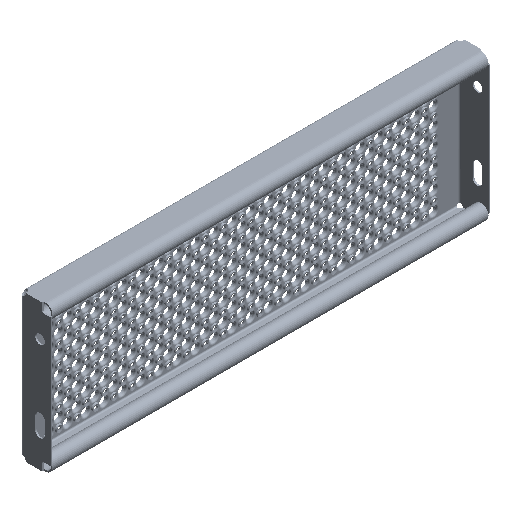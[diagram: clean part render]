
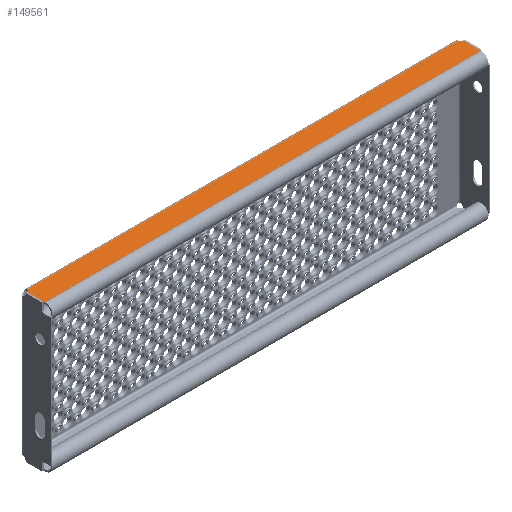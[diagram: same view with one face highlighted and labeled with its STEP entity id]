
A CAD part, isometric view. The second image highlights one B-rep face of the part: STEP entity #149561.
In plain terms, the highlighted planar face has unit normal (0, 0, 1).
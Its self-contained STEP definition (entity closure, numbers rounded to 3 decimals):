
#2980 = LINE ( 'NONE', #129028, #78243 ) ;
#6266 = DIRECTION ( 'NONE',  ( 1., 0., 0. ) ) ;
#8070 = CIRCLE ( 'NONE', #145497, 5. ) ;
#25089 = DIRECTION ( 'NONE',  ( 0., -1., 0. ) ) ;
#26276 = ORIENTED_EDGE ( 'NONE', *, *, #128598, .F. ) ;
#28226 = CARTESIAN_POINT ( 'NONE',  ( -299., -2.288, 100. ) ) ;
#28758 = PLANE ( 'NONE',  #157860 ) ;
#33707 = EDGE_CURVE ( 'NONE', #33937, #149584, #66928, .T. ) ;
#33937 = VERTEX_POINT ( 'NONE', #114642 ) ;
#43606 = EDGE_CURVE ( 'NONE', #105761, #109520, #8070, .T. ) ;
#54260 = CARTESIAN_POINT ( 'NONE',  ( -297.99, -31.998, 100. ) ) ;
#54563 = LINE ( 'NONE', #199494, #81093 ) ;
#55461 = CARTESIAN_POINT ( 'NONE',  ( -297.99, -7.185, 100. ) ) ;
#57533 = LINE ( 'NONE', #55461, #100129 ) ;
#57534 = VECTOR ( 'NONE', #162413, 1000. ) ;
#57918 = ORIENTED_EDGE ( 'NONE', *, *, #33707, .T. ) ;
#58790 = VERTEX_POINT ( 'NONE', #106507 ) ;
#59149 = CARTESIAN_POINT ( 'NONE',  ( -299., 195.712, 100. ) ) ;
#60655 = DIRECTION ( 'NONE',  ( 0., -1., 0. ) ) ;
#64372 = ORIENTED_EDGE ( 'NONE', *, *, #149250, .T. ) ;
#65588 = CARTESIAN_POINT ( 'NONE',  ( -294.302, -4., 100. ) ) ;
#66928 = LINE ( 'NONE', #54260, #57534 ) ;
#74899 = CARTESIAN_POINT ( 'NONE',  ( 297.99, -31.998, 100. ) ) ;
#78243 = VECTOR ( 'NONE', #195099, 1000. ) ;
#81093 = VECTOR ( 'NONE', #6266, 1000. ) ;
#81278 = CARTESIAN_POINT ( 'NONE',  ( 294.302, -4., 100. ) ) ;
#88170 = EDGE_LOOP ( 'NONE', ( #57918, #201170, #169276, #26276, #64372, #162608 ) ) ;
#100129 = VECTOR ( 'NONE', #25089, 1000. ) ;
#105761 = VERTEX_POINT ( 'NONE', #125395 ) ;
#106507 = CARTESIAN_POINT ( 'NONE',  ( -297.99, -7.185, 100. ) ) ;
#109520 = VERTEX_POINT ( 'NONE', #81278 ) ;
#114149 = AXIS2_PLACEMENT_3D ( 'NONE', #28226, #141437, #60655 ) ;
#114642 = CARTESIAN_POINT ( 'NONE',  ( -297.99, -31.998, 100. ) ) ;
#125395 = CARTESIAN_POINT ( 'NONE',  ( 297.99, -7.185, 100. ) ) ;
#127782 = DIRECTION ( 'NONE',  ( 0., -1., 0. ) ) ;
#128598 = EDGE_CURVE ( 'NONE', #151816, #109520, #54563, .T. ) ;
#129028 = CARTESIAN_POINT ( 'NONE',  ( 297.99, -7.185, 100. ) ) ;
#141437 = DIRECTION ( 'NONE',  ( 0., 0., -1. ) ) ;
#145497 = AXIS2_PLACEMENT_3D ( 'NONE', #206597, #176064, #127782 ) ;
#149250 = EDGE_CURVE ( 'NONE', #151816, #58790, #191287, .T. ) ;
#149561 = ADVANCED_FACE ( 'NONE', ( #149834 ), #28758, .T. ) ;
#149584 = VERTEX_POINT ( 'NONE', #74899 ) ;
#149834 = FACE_OUTER_BOUND ( 'NONE', #88170, .T. ) ;
#151816 = VERTEX_POINT ( 'NONE', #65588 ) ;
#157860 = AXIS2_PLACEMENT_3D ( 'NONE', #59149, #187188, #182286 ) ;
#162413 = DIRECTION ( 'NONE',  ( 1., 0., 0. ) ) ;
#162608 = ORIENTED_EDGE ( 'NONE', *, *, #184304, .T. ) ;
#167784 = EDGE_CURVE ( 'NONE', #149584, #105761, #2980, .T. ) ;
#169276 = ORIENTED_EDGE ( 'NONE', *, *, #43606, .T. ) ;
#176064 = DIRECTION ( 'NONE',  ( 0., 0., -1. ) ) ;
#182286 = DIRECTION ( 'NONE',  ( 0., -1., 0. ) ) ;
#184304 = EDGE_CURVE ( 'NONE', #58790, #33937, #57533, .T. ) ;
#187188 = DIRECTION ( 'NONE',  ( 0., 0., 1. ) ) ;
#191287 = CIRCLE ( 'NONE', #114149, 5. ) ;
#195099 = DIRECTION ( 'NONE',  ( 0., 1., 0. ) ) ;
#199494 = CARTESIAN_POINT ( 'NONE',  ( -299., -4., 100. ) ) ;
#201170 = ORIENTED_EDGE ( 'NONE', *, *, #167784, .T. ) ;
#206597 = CARTESIAN_POINT ( 'NONE',  ( 299., -2.288, 100. ) ) ;
